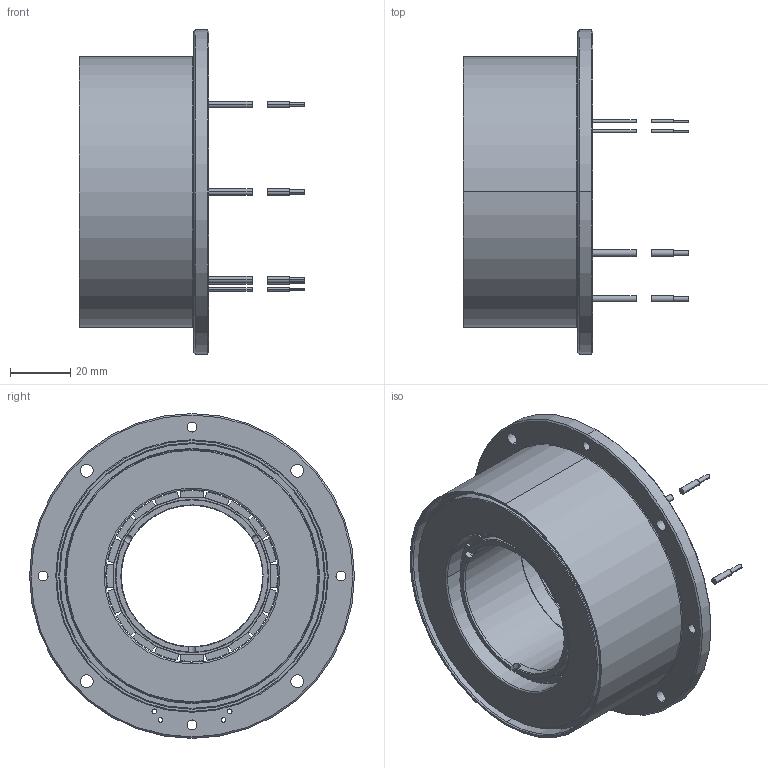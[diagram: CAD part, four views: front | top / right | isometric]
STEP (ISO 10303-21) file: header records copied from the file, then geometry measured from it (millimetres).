
FILE_DESCRIPTION((''),'2;1');
FILE_NAME('EC_FRAMELESS_DT85L','2022-11-15T14:54:21',('MMAGVISI'),(''),'CREO PARAMETRIC BY PTC INC, 2020342','CREO PARAMETRIC BY PTC INC, 2020342','');
FILE_SCHEMA(('CONFIG_CONTROL_DESIGN','SHAPE_APPEARANCE_LAYERS_GROUPS'));
Length unit declared in the file: millimetre
Products named in the file (1): EC_FRAMELESS_DT85L
Bounding box: 74.84 x 108 x 108 mm (x, y, z)
Volume: 186317.8 mm3; surface area: 57277.6 mm2
Topology: 27 solids, 27 shells, 493 faces, 1234 edges, 810 vertices
Faces by surface type: plane 264, torus 110, cylinder 99, cone 20
Entity records: 19700 total; most frequent: CARTESIAN_POINT 4454, ORIENTED_EDGE 2468, DIRECTION 2094, PRESENTATION_STYLE_ASSIGNMENT 1261, STYLED_ITEM 1261, CURVE_STYLE 1234, EDGE_CURVE 1234, VERTEX_POINT 810
